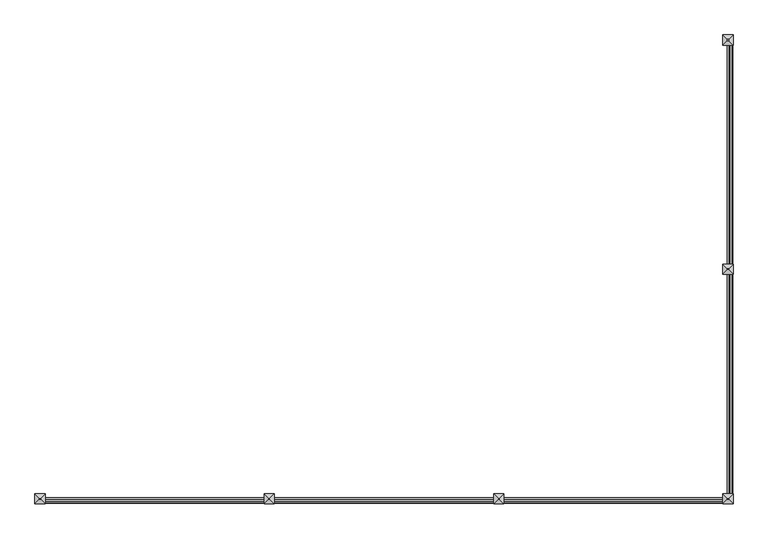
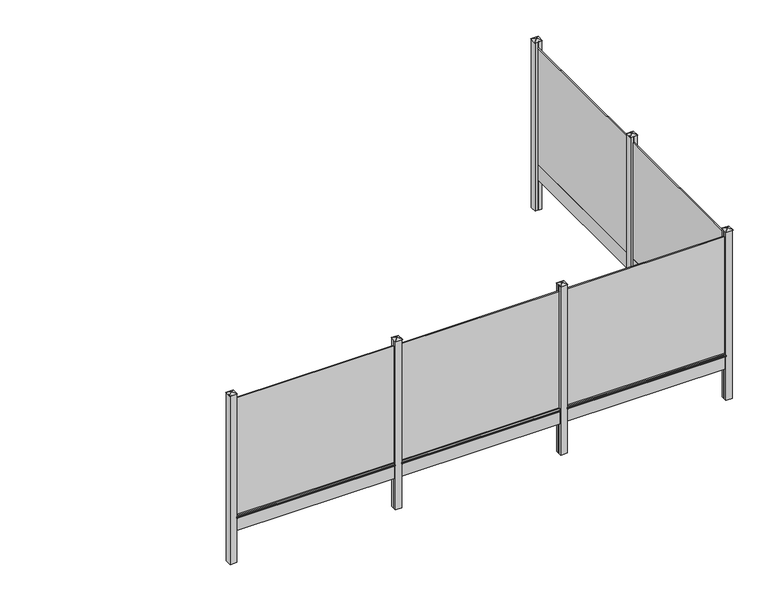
"""IFC4 building model written with IfcOpenShell, lengths in millimetres: railing geometry, Mehat - Railing - Plaque de Soubassement - Classique pour clôture rigide - 250x25x1.7 cm."""

import ifcopenshell
import ifcopenshell.guid

model = None  # the IFC model being written
_history = None  # IfcOwnerHistory: only IFC2X3 demands one
_inside = {}  # id of a spatial element -> (the spatial element, [elements in it])
_under = {}  # id of a project, library or spatial element -> (it, [spatial elements below it])
_declared = {}  # id of a project -> (the project, [libraries it declares])
_typed = {}  # id of a type object -> (the type object, [elements of that type])
_made_of = {}  # id of a material, layer set ... -> (it, [elements and type objects made of it])


def new_model(schema):
    """Start an empty IFC model of exactly this schema.

    Asked for "IFC4X3", IfcOpenShell would pick the latest addendum, in which some entities
    have other attributes; the version numbers below select the first issue.
    IFC2X3 requires an IfcOwnerHistory on every rooted entity: one is made here for all.
    """
    global model, _history
    if schema == "IFC4X3":
        model = ifcopenshell.file(schema_version=(4, 3, 0, 0))
    else:
        model = ifcopenshell.file(schema=schema)
    _inside.clear()
    _under.clear()
    _declared.clear()
    _typed.clear()
    _made_of.clear()
    _history = None
    if model.schema == "IFC2X3":
        org = make("IfcOrganization", Name="unknown")
        user = make(
            "IfcPersonAndOrganization",
            ThePerson=make("IfcPerson", FamilyName="unknown"),
            TheOrganization=org,
        )
        app = make(
            "IfcApplication",
            ApplicationDeveloper=org,
            Version="unknown",
            ApplicationFullName="unknown",
            ApplicationIdentifier="unknown",
        )
        _history = make(
            "IfcOwnerHistory",
            OwningUser=user,
            OwningApplication=app,
            ChangeAction="ADDED",
            CreationDate=0,
        )
    return model


def make(cls, **values):
    """One entity of the class cls with the attributes given. An attribute that is None is left unset."""
    return model.create_entity(
        cls, **{name: value for name, value in values.items() if value is not None}
    )


def rooted(cls, **values):
    """An entity with a GlobalId (a new one), such as an element, a storey or a relation."""
    return make(cls, GlobalId=ifcopenshell.guid.new(), OwnerHistory=_history, **values)


def si_unit(unit_type, name, prefix=None):
    """IfcSIUnit, for example si_unit("LENGTHUNIT", "METRE", prefix="MILLI")."""
    return make("IfcSIUnit", UnitType=unit_type, Prefix=prefix, Name=name)


def assignment(units):
    """IfcUnitAssignment: the units of a project."""
    return None if units is None else make("IfcUnitAssignment", Units=units)


def point(xyz):
    """IfcCartesianPoint."""
    return None if xyz is None else make("IfcCartesianPoint", Coordinates=xyz)


def direction(xyz):
    """IfcDirection."""
    return None if xyz is None else make("IfcDirection", DirectionRatios=xyz)


def frame(location, z_axis=None, x_axis=None):
    """IfcAxis2Placement3D, a coordinate frame: its origin and axes. An axis left out is left unset."""
    return make(
        "IfcAxis2Placement3D",
        Location=point(location),
        Axis=direction(z_axis),
        RefDirection=direction(x_axis),
    )


def frame_2d(location, x_axis=None):
    """IfcAxis2Placement2D, a coordinate frame in the plane: its origin and x axis."""
    return make(
        "IfcAxis2Placement2D", Location=point(location), RefDirection=direction(x_axis)
    )


def origin():
    """The frame at (0, 0, 0) with its axes left unset."""
    return frame((0.0, 0.0, 0.0))


def origin_with_axes():
    """The frame at (0, 0, 0) with the z axis (0, 0, 1) and the x axis (1, 0, 0) written out."""
    return frame((0.0, 0.0, 0.0), z_axis=(0.0, 0.0, 1.0), x_axis=(1.0, 0.0, 0.0))


def place(relative_to, where):
    """IfcLocalPlacement: puts the frame where relative to a parent placement (None: the world)."""
    return make(
        "IfcLocalPlacement", PlacementRelTo=relative_to, RelativePlacement=where
    )


def context(
    kind, dimensions, precision=None, world=None, true_north=None, identifier=None
):
    """IfcGeometricRepresentationContext, for example the 3D "Model" context."""
    return make(
        "IfcGeometricRepresentationContext",
        ContextIdentifier=identifier,
        ContextType=kind,
        CoordinateSpaceDimension=dimensions,
        Precision=precision,
        WorldCoordinateSystem=world,
        TrueNorth=true_north,
    )


def project(units=None, contexts=None):
    """IfcProject with its units and contexts."""
    return rooted(
        "IfcProject",
        Name="project",
        RepresentationContexts=contexts,
        UnitsInContext=assignment(units),
    )


def spatial(cls, under=None, at=None, **own):
    """A site, building, storey or space (cls), placed at a placement, below another one or the project."""
    s = rooted(cls, ObjectPlacement=at, **own)
    if under is not None:
        _under.setdefault(under.id(), (under, []))[1].append(s)
    return s


def polyline(points):
    """IfcPolyline through the points."""
    return make("IfcPolyline", Points=[point(p) for p in points])


def circle_curve(where, radius):
    """IfcCircle in the frame where."""
    return make("IfcCircle", Position=where, Radius=radius)


def trimmed(basis, trim1, trim2, sense, master):
    """IfcTrimmedCurve: the piece of a basis curve between two trims."""
    return make(
        "IfcTrimmedCurve",
        BasisCurve=basis,
        Trim1=trim1,
        Trim2=trim2,
        SenseAgreement=sense,
        MasterRepresentation=master,
    )


def segment(curve, same_sense, transition):
    """IfcCompositeCurveSegment."""
    return make(
        "IfcCompositeCurveSegment",
        Transition=transition,
        SameSense=same_sense,
        ParentCurve=curve,
    )


def composite_curve(segments, self_intersect=None):
    """IfcCompositeCurve: segments joined end to end."""
    return make("IfcCompositeCurve", Segments=segments, SelfIntersect=self_intersect)


def outline(outer, holes=None, kind="AREA"):
    """IfcArbitraryClosedProfileDef: a profile drawn as a closed curve; with holes, ...WithVoids."""
    if holes is None:
        return make("IfcArbitraryClosedProfileDef", ProfileType=kind, OuterCurve=outer)
    return make(
        "IfcArbitraryProfileDefWithVoids",
        ProfileType=kind,
        OuterCurve=outer,
        InnerCurves=holes,
    )


def extrude(swept, where, along, depth):
    """IfcExtrudedAreaSolid: the profile swept, set in the frame where, extruded along a direction by depth."""
    return make(
        "IfcExtrudedAreaSolid",
        SweptArea=swept,
        Position=where,
        ExtrudedDirection=direction(along),
        Depth=depth,
    )


def faces_of(points, faces, orient=None, outer=None):
    """IfcFace entities. A face is a list of loops; a loop is a list of indices into points, from 0.

    orient and outer hold one flag for each loop. By default every Orientation is true, the
    first loop of a face is its IfcFaceOuterBound and the others are IfcFaceBound.
    """
    made = []
    for i, loops in enumerate(faces):
        bounds = []
        for j, loop in enumerate(loops):
            is_outer = j == 0 if outer is None else outer[i][j]
            bounds.append(
                make(
                    "IfcFaceOuterBound" if is_outer else "IfcFaceBound",
                    Bound=make("IfcPolyLoop", Polygon=[points[k] for k in loop]),
                    Orientation=True if orient is None else orient[i][j],
                )
            )
        made.append(make("IfcFace", Bounds=bounds))
    return made


def faceted_brep(points, faces, orient=None, outer=None, voids=None):
    """IfcFacetedBrep: a solid bounded by flat faces; with voids (closed shells), ...WithVoids."""
    shared = [point(p) for p in points]
    hull = make("IfcClosedShell", CfsFaces=faces_of(shared, faces, orient, outer))
    if voids is None:
        return make("IfcFacetedBrep", Outer=hull)
    return make(
        "IfcFacetedBrepWithVoids",
        Outer=hull,
        Voids=[
            make(cls, CfsFaces=faces_of(shared, fs, o, b)) for cls, fs, o, b in voids
        ],
    )


def shape(context_of_items, identifier, shape_type, items):
    """IfcShapeRepresentation: the items that make up one representation, for example the "Body"."""
    return make(
        "IfcShapeRepresentation",
        ContextOfItems=context_of_items,
        RepresentationIdentifier=identifier,
        RepresentationType=shape_type,
        Items=items,
    )


def source(mapping_origin, context_of_items, identifier, shape_type, items):
    """IfcRepresentationMap: a shape defined once, which mapped items show again and again."""
    return make(
        "IfcRepresentationMap",
        MappingOrigin=mapping_origin,
        MappedRepresentation=shape(context_of_items, identifier, shape_type, items),
    )


def transform(
    local_origin,
    x_axis=None,
    y_axis=None,
    z_axis=None,
    scale=None,
    scale2=None,
    scale3=None,
    uniform=True,
):
    """IfcCartesianTransformationOperator3D, or its non-uniform kind. x_axis, y_axis, z_axis: its Axis1, 2, 3."""
    if uniform:
        return make(
            "IfcCartesianTransformationOperator3D",
            Axis1=direction(x_axis),
            Axis2=direction(y_axis),
            LocalOrigin=point(local_origin),
            Scale=scale,
            Axis3=direction(z_axis),
        )
    return make(
        "IfcCartesianTransformationOperator3DnonUniform",
        Axis1=direction(x_axis),
        Axis2=direction(y_axis),
        LocalOrigin=point(local_origin),
        Scale=scale,
        Axis3=direction(z_axis),
        Scale2=scale2,
        Scale3=scale3,
    )


def mapped(mapping_source, mapping_target):
    """IfcMappedItem: shows the shape of a source again, moved by a transform."""
    return make(
        "IfcMappedItem", MappingSource=mapping_source, MappingTarget=mapping_target
    )


def made_of(thing, what):
    """Note that an element or type object is made of a material, layer set ...; save() writes the relation."""
    if what is not None:
        _made_of.setdefault(what.id(), (what, []))[1].append(thing)
    return thing


def element(
    cls,
    number,
    at=None,
    inside=None,
    cuts=None,
    type_object=None,
    material=None,
    context=None,
    identifier="Body",
    shape_type=None,
    held_by="IfcProductDefinitionShape",
    body=None,
    shapes=None,
    **own,
):
    """One element of the class cls, such as IfcWall. Its Tag is "e" and its number.

    at: its placement. inside: the storey or other place that contains it. cuts: it is an
    opening in that element (IfcRelVoidsElement). A single representation is given by context,
    identifier, shape_type and body (its items); several are given by shapes. held_by: the class
    of the entity that holds the representations. save() writes the other relations.
    """
    e = rooted(cls, Tag="e%d" % number, ObjectPlacement=at, **own)
    if body is not None:
        shapes = [shape(context, identifier, shape_type, body)]
    if shapes is not None:
        e.Representation = make(held_by, Representations=shapes)
    if inside is not None:
        _inside.setdefault(inside.id(), (inside, []))[1].append(e)
    if cuts is not None:
        rooted(
            "IfcRelVoidsElement", RelatingBuildingElement=cuts, RelatedOpeningElement=e
        )
    if type_object is not None:
        _typed.setdefault(type_object.id(), (type_object, []))[1].append(e)
    return made_of(e, material)


def aggregate(whole, parts):
    """IfcRelAggregates: a whole, such as a stair, and the parts it consists of."""
    return rooted("IfcRelAggregates", RelatingObject=whole, RelatedObjects=parts)


def save(model, path):
    """Write the relations noted so far, then the file.

    IfcRelAggregates (storeys below a building ...), IfcRelContainedInSpatialStructure (elements
    in a storey), IfcRelDefinesByType, IfcRelAssociatesMaterial and IfcRelDeclares: one each for
    every whole, place, type object, material and project.
    """
    for whole, parts in _under.values():
        aggregate(whole, parts)
    for where, things in _inside.values():
        rooted(
            "IfcRelContainedInSpatialStructure",
            RelatedElements=things,
            RelatingStructure=where,
        )
    for kind, things in _typed.values():
        rooted("IfcRelDefinesByType", RelatedObjects=things, RelatingType=kind)
    for what, things in _made_of.values():
        rooted("IfcRelAssociatesMaterial", RelatedObjects=things, RelatingMaterial=what)
    for by, libraries in _declared.values():
        rooted("IfcRelDeclares", RelatingContext=by, RelatedDefinitions=libraries)
    model.write(path)


def railing_7e02b309(model_context):
    return source(origin(), model_context, "Body", "SolidModel", [
        extrude(outline(polyline([(-27203.7483484, -11027.4943936), (-27220.7483484, -11027.4943936), (-27220.7483484, -8527.4943936), (-27203.7483484, -8527.4943936), (-27203.7483484, -11027.4943936)])), frame((0.0, 0.0, 250.0), z_axis=(0.0, 0.0, 1.0), x_axis=(1.0, 0.0, 0.0)), (0.0, 0.0, 1.0), 1900.0),
        extrude(outline(polyline([(-27203.7483484, -11027.4943936), (-27220.7483484, -11027.4943936), (-27220.7483484, -8527.4943936), (-27203.7483484, -8527.4943936), (-27203.7483484, -8552.4943936), (-27185.7483484, -8552.4943936), (-27185.7483484, -11002.4943936), (-27203.7483484, -11002.4943936), (-27203.7483484, -11027.4943936)])), origin_with_axes(), (0.0, 0.0, 1.0), 250.0),
        extrude(outline(composite_curve([segment(polyline([(210.0, -27185.7483484), (217.1937129, -27164.1672095)]), True, "CONTINUOUS"), segment(trimmed(circle_curve(frame_2d((221.9371294, -27165.7483484)), 5.0), [point((217.1937129, -27164.1672095))], [point((221.9371294, -27160.7483484))], False, "CARTESIAN"), True, "CONTINUOUS"), segment(polyline([(221.9371294, -27160.7483484), (238.0628706, -27160.7483484)]), True, "CONTINUOUS"), segment(trimmed(circle_curve(frame_2d((238.0628706, -27165.7483484)), 5.0), [point((238.0628706, -27160.7483484))], [point((242.8062871, -27164.1672095))], False, "CARTESIAN"), True, "CONTINUOUS"), segment(polyline([(242.8062871, -27164.1672095), (250.0, -27185.7483484), (210.0, -27185.7483484)]), True, "CONTINUOUS")], self_intersect=False)), frame((0.0, -11002.4943936, 0.0), z_axis=(0.0, 1.0, 0.0), x_axis=(0.0, 0.0, 1.0)), (0.0, 0.0, 1.0), 2450.0),
        extrude(outline(polyline([(-27162.2483484, -11102.4943936), (-27203.7483484, -11102.4943936), (-27203.7483484, -11077.4943936), (-27220.7483484, -11077.4943936), (-27220.7483484, -11102.4943936), (-27262.2483484, -11102.4943936), (-27262.2483484, -11002.4943936), (-27220.7483484, -11002.4943936), (-27220.7483484, -11027.4943936), (-27203.7483484, -11027.4943936), (-27203.7483484, -11002.4943936), (-27162.2483484, -11002.4943936), (-27162.2483484, -11102.4943936)])), frame((0.0, 0.0, -500.0), z_axis=(0.0, 0.0, 1.0), x_axis=(1.0, 0.0, 0.0)), (0.0, 0.0, 1.0), 2750.0),
        faceted_brep([(-27218.6528945, -11046.1443936, 2275.4), (-27218.6528945, -11058.8443936, 2275.4), (-27205.9528945, -11058.8443936, 2275.4), (-27205.9528945, -11046.1443936, 2275.4), (-27268.5983484, -10996.1443936, 2250.0), (-27155.8983484, -10996.1443936, 2250.0), (-27155.8983484, -11108.8443936, 2250.0), (-27268.5983484, -11108.8443936, 2250.0)], [[[0, 1, 2, 3]], [[4, 5, 6, 7]], [[4, 0, 3, 5]], [[5, 3, 2, 6]], [[6, 2, 1, 7]], [[7, 1, 0, 4]]]),
        extrude(outline(polyline([(-27203.7483484, -13577.4943936), (-27220.7483484, -13577.4943936), (-27220.7483484, -11077.4943936), (-27203.7483484, -11077.4943936), (-27203.7483484, -13577.4943936)])), frame((0.0, 0.0, 250.0), z_axis=(0.0, 0.0, 1.0), x_axis=(1.0, 0.0, 0.0)), (0.0, 0.0, 1.0), 1900.0),
        extrude(outline(polyline([(-27203.7483484, -13577.4943936), (-27220.7483484, -13577.4943936), (-27220.7483484, -11077.4943936), (-27203.7483484, -11077.4943936), (-27203.7483484, -11102.4943936), (-27185.7483484, -11102.4943936), (-27185.7483484, -13552.4943936), (-27203.7483484, -13552.4943936), (-27203.7483484, -13577.4943936)])), origin_with_axes(), (0.0, 0.0, 1.0), 250.0),
        extrude(outline(composite_curve([segment(polyline([(210.0, -27185.7483484), (217.1937129, -27164.1672095)]), True, "CONTINUOUS"), segment(trimmed(circle_curve(frame_2d((221.9371294, -27165.7483484)), 5.0), [point((217.1937129, -27164.1672095))], [point((221.9371294, -27160.7483484))], False, "CARTESIAN"), True, "CONTINUOUS"), segment(polyline([(221.9371294, -27160.7483484), (238.0628706, -27160.7483484)]), True, "CONTINUOUS"), segment(trimmed(circle_curve(frame_2d((238.0628706, -27165.7483484)), 5.0), [point((238.0628706, -27160.7483484))], [point((242.8062871, -27164.1672095))], False, "CARTESIAN"), True, "CONTINUOUS"), segment(polyline([(242.8062871, -27164.1672095), (250.0, -27185.7483484), (210.0, -27185.7483484)]), True, "CONTINUOUS")], self_intersect=False)), frame((0.0, -13552.4943936, 0.0), z_axis=(0.0, 1.0, 0.0), x_axis=(0.0, 0.0, 1.0)), (0.0, 0.0, 1.0), 2450.0),
        extrude(outline(polyline([(-29737.2483484, -13610.9943936), (-29737.2483484, -13593.9943936), (-27237.2483484, -13593.9943936), (-27237.2483484, -13610.9943936), (-29737.2483484, -13610.9943936)])), frame((0.0, 0.0, 250.0), z_axis=(0.0, 0.0, 1.0), x_axis=(1.0, 0.0, 0.0)), (0.0, 0.0, 1.0), 1900.0),
        extrude(outline(polyline([(-29737.2483484, -13610.9943936), (-29737.2483484, -13593.9943936), (-27237.2483484, -13593.9943936), (-27237.2483484, -13610.9943936), (-27262.2483484, -13610.9943936), (-27262.2483484, -13628.9943936), (-29712.2483484, -13628.9943936), (-29712.2483484, -13610.9943936), (-29737.2483484, -13610.9943936)])), origin_with_axes(), (0.0, 0.0, 1.0), 250.0),
        extrude(outline(composite_curve([segment(polyline([(-13628.9943936, 210.0), (-13650.5755325, 217.1937129)]), True, "CONTINUOUS"), segment(trimmed(circle_curve(frame_2d((-13648.9943936, 221.9371294)), 5.0), [point((-13650.5755325, 217.1937129))], [point((-13653.9943936, 221.9371294))], False, "CARTESIAN"), True, "CONTINUOUS"), segment(polyline([(-13653.9943936, 221.9371294), (-13653.9943936, 238.0628706)]), True, "CONTINUOUS"), segment(trimmed(circle_curve(frame_2d((-13648.9943936, 238.0628706)), 5.0), [point((-13653.9943936, 238.0628706))], [point((-13650.5755325, 242.8062871))], False, "CARTESIAN"), True, "CONTINUOUS"), segment(polyline([(-13650.5755325, 242.8062871), (-13628.9943936, 250.0), (-13628.9943936, 210.0)]), True, "CONTINUOUS")], self_intersect=False)), frame((-29712.2483484, 0.0, 0.0), z_axis=(1.0, 0.0, 0.0), x_axis=(0.0, 1.0, 0.0)), (0.0, 0.0, 1.0), 2450.0),
        extrude(outline(polyline([(-29812.2483484, -13652.4943936), (-29812.2483484, -13610.9943936), (-29787.2483484, -13610.9943936), (-29787.2483484, -13593.9943936), (-29812.2483484, -13593.9943936), (-29812.2483484, -13552.4943936), (-29712.2483484, -13552.4943936), (-29712.2483484, -13593.9943936), (-29737.2483484, -13593.9943936), (-29737.2483484, -13610.9943936), (-29712.2483484, -13610.9943936), (-29712.2483484, -13652.4943936), (-29812.2483484, -13652.4943936)])), frame((0.0, 0.0, -500.0), z_axis=(0.0, 0.0, 1.0), x_axis=(1.0, 0.0, 0.0)), (0.0, 0.0, 1.0), 2750.0),
        faceted_brep([(-29755.8983484, -13596.0898475, 2275.4), (-29768.5983484, -13596.0898475, 2275.4), (-29768.5983484, -13608.7898475, 2275.4), (-29755.8983484, -13608.7898475, 2275.4), (-29705.8983484, -13546.1443936, 2250.0), (-29705.8983484, -13658.8443936, 2250.0), (-29818.5983484, -13658.8443936, 2250.0), (-29818.5983484, -13546.1443936, 2250.0)], [[[0, 1, 2, 3]], [[4, 5, 6, 7]], [[4, 0, 3, 5]], [[5, 3, 2, 6]], [[6, 2, 1, 7]], [[7, 1, 0, 4]]]),
        extrude(outline(polyline([(-32287.2483484, -13610.9943936), (-32287.2483484, -13593.9943936), (-29787.2483484, -13593.9943936), (-29787.2483484, -13610.9943936), (-32287.2483484, -13610.9943936)])), frame((0.0, 0.0, 250.0), z_axis=(0.0, 0.0, 1.0), x_axis=(1.0, 0.0, 0.0)), (0.0, 0.0, 1.0), 1900.0),
        extrude(outline(polyline([(-32287.2483484, -13610.9943936), (-32287.2483484, -13593.9943936), (-29787.2483484, -13593.9943936), (-29787.2483484, -13610.9943936), (-29812.2483484, -13610.9943936), (-29812.2483484, -13628.9943936), (-32262.2483484, -13628.9943936), (-32262.2483484, -13610.9943936), (-32287.2483484, -13610.9943936)])), origin_with_axes(), (0.0, 0.0, 1.0), 250.0),
        extrude(outline(composite_curve([segment(polyline([(-13628.9943936, 210.0), (-13650.5755325, 217.1937129)]), True, "CONTINUOUS"), segment(trimmed(circle_curve(frame_2d((-13648.9943936, 221.9371294)), 5.0), [point((-13650.5755325, 217.1937129))], [point((-13653.9943936, 221.9371294))], False, "CARTESIAN"), True, "CONTINUOUS"), segment(polyline([(-13653.9943936, 221.9371294), (-13653.9943936, 238.0628706)]), True, "CONTINUOUS"), segment(trimmed(circle_curve(frame_2d((-13648.9943936, 238.0628706)), 5.0), [point((-13653.9943936, 238.0628706))], [point((-13650.5755325, 242.8062871))], False, "CARTESIAN"), True, "CONTINUOUS"), segment(polyline([(-13650.5755325, 242.8062871), (-13628.9943936, 250.0), (-13628.9943936, 210.0)]), True, "CONTINUOUS")], self_intersect=False)), frame((-32262.2483484, 0.0, 0.0), z_axis=(1.0, 0.0, 0.0), x_axis=(0.0, 1.0, 0.0)), (0.0, 0.0, 1.0), 2450.0),
        extrude(outline(polyline([(-32362.2483484, -13652.4943936), (-32362.2483484, -13610.9943936), (-32337.2483484, -13610.9943936), (-32337.2483484, -13593.9943936), (-32362.2483484, -13593.9943936), (-32362.2483484, -13552.4943936), (-32262.2483484, -13552.4943936), (-32262.2483484, -13593.9943936), (-32287.2483484, -13593.9943936), (-32287.2483484, -13610.9943936), (-32262.2483484, -13610.9943936), (-32262.2483484, -13652.4943936), (-32362.2483484, -13652.4943936)])), frame((0.0, 0.0, -500.0), z_axis=(0.0, 0.0, 1.0), x_axis=(1.0, 0.0, 0.0)), (0.0, 0.0, 1.0), 2750.0),
        faceted_brep([(-32305.8983484, -13596.0898475, 2275.4), (-32318.5983484, -13596.0898475, 2275.4), (-32318.5983484, -13608.7898475, 2275.4), (-32305.8983484, -13608.7898475, 2275.4), (-32255.8983484, -13546.1443936, 2250.0), (-32255.8983484, -13658.8443936, 2250.0), (-32368.5983484, -13658.8443936, 2250.0), (-32368.5983484, -13546.1443936, 2250.0)], [[[0, 1, 2, 3]], [[4, 5, 6, 7]], [[4, 0, 3, 5]], [[5, 3, 2, 6]], [[6, 2, 1, 7]], [[7, 1, 0, 4]]]),
        extrude(outline(polyline([(-34837.2483484, -13610.9943936), (-34837.2483484, -13593.9943936), (-32337.2483484, -13593.9943936), (-32337.2483484, -13610.9943936), (-34837.2483484, -13610.9943936)])), frame((0.0, 0.0, 250.0), z_axis=(0.0, 0.0, 1.0), x_axis=(1.0, 0.0, 0.0)), (0.0, 0.0, 1.0), 1900.0),
        extrude(outline(polyline([(-34837.2483484, -13610.9943936), (-34837.2483484, -13593.9943936), (-32337.2483484, -13593.9943936), (-32337.2483484, -13610.9943936), (-32362.2483484, -13610.9943936), (-32362.2483484, -13628.9943936), (-34812.2483484, -13628.9943936), (-34812.2483484, -13610.9943936), (-34837.2483484, -13610.9943936)])), origin_with_axes(), (0.0, 0.0, 1.0), 250.0),
        extrude(outline(composite_curve([segment(polyline([(-13628.9943936, 210.0), (-13650.5755325, 217.1937129)]), True, "CONTINUOUS"), segment(trimmed(circle_curve(frame_2d((-13648.9943936, 221.9371294)), 5.0), [point((-13650.5755325, 217.1937129))], [point((-13653.9943936, 221.9371294))], False, "CARTESIAN"), True, "CONTINUOUS"), segment(polyline([(-13653.9943936, 221.9371294), (-13653.9943936, 238.0628706)]), True, "CONTINUOUS"), segment(trimmed(circle_curve(frame_2d((-13648.9943936, 238.0628706)), 5.0), [point((-13653.9943936, 238.0628706))], [point((-13650.5755325, 242.8062871))], False, "CARTESIAN"), True, "CONTINUOUS"), segment(polyline([(-13650.5755325, 242.8062871), (-13628.9943936, 250.0), (-13628.9943936, 210.0)]), True, "CONTINUOUS")], self_intersect=False)), frame((-34812.2483484, 0.0, 0.0), z_axis=(1.0, 0.0, 0.0), x_axis=(0.0, 1.0, 0.0)), (0.0, 0.0, 1.0), 2450.0),
        extrude(outline(polyline([(-27262.2483484, -13652.4943936), (-27262.2483484, -13610.9943936), (-27237.2483484, -13610.9943936), (-27237.2483484, -13593.9943936), (-27262.2483484, -13593.9943936), (-27262.2483484, -13552.4943936), (-27220.7483484, -13552.4943936), (-27220.7483484, -13577.4943936), (-27203.7483484, -13577.4943936), (-27203.7483484, -13552.4943936), (-27162.2483484, -13552.4943936), (-27162.2483484, -13652.4943936), (-27262.2483484, -13652.4943936)])), frame((0.0, 0.0, -500.0), z_axis=(0.0, 0.0, 1.0), x_axis=(1.0, 0.0, 0.0)), (0.0, 0.0, 1.0), 2750.0),
        faceted_brep([(-27205.8983484, -13596.0898475, 2275.4), (-27218.5983484, -13596.0898475, 2275.4), (-27218.5983484, -13608.7898475, 2275.4), (-27205.8983484, -13608.7898475, 2275.4), (-27155.8983484, -13546.1443936, 2250.0), (-27155.8983484, -13658.8443936, 2250.0), (-27268.5983484, -13658.8443936, 2250.0), (-27268.5983484, -13546.1443936, 2250.0)], [[[0, 1, 2, 3]], [[4, 5, 6, 7]], [[4, 0, 3, 5]], [[5, 3, 2, 6]], [[6, 2, 1, 7]], [[7, 1, 0, 4]]]),
        extrude(outline(polyline([(-27162.2483484, -8552.4943936), (-27203.7483484, -8552.4943936), (-27203.7483484, -8527.4943936), (-27220.7483484, -8527.4943936), (-27220.7483484, -8552.4943936), (-27262.2483484, -8552.4943936), (-27262.2483484, -8452.4943936), (-27162.2483484, -8452.4943936), (-27162.2483484, -8552.4943936)])), frame((0.0, 0.0, -500.0), z_axis=(0.0, 0.0, 1.0), x_axis=(1.0, 0.0, 0.0)), (0.0, 0.0, 1.0), 2750.0),
        faceted_brep([(-27218.6528945, -8496.1443936, 2275.4), (-27218.6528945, -8508.8443936, 2275.4), (-27205.9528945, -8508.8443936, 2275.4), (-27205.9528945, -8496.1443936, 2275.4), (-27268.5983484, -8446.1443936, 2250.0), (-27155.8983484, -8446.1443936, 2250.0), (-27155.8983484, -8558.8443936, 2250.0), (-27268.5983484, -8558.8443936, 2250.0)], [[[0, 1, 2, 3]], [[4, 5, 6, 7]], [[4, 0, 3, 5]], [[5, 3, 2, 6]], [[6, 2, 1, 7]], [[7, 1, 0, 4]]]),
        extrude(outline(polyline([(-34912.2483484, -13652.4943936), (-34912.2483484, -13552.4943936), (-34812.2483484, -13552.4943936), (-34812.2483484, -13593.9943936), (-34837.2483484, -13593.9943936), (-34837.2483484, -13610.9943936), (-34812.2483484, -13610.9943936), (-34812.2483484, -13652.4943936), (-34912.2483484, -13652.4943936)])), frame((0.0, 0.0, -500.0), z_axis=(0.0, 0.0, 1.0), x_axis=(1.0, 0.0, 0.0)), (0.0, 0.0, 1.0), 2750.0),
        faceted_brep([(-34855.8983484, -13596.0898475, 2275.4), (-34868.5983484, -13596.0898475, 2275.4), (-34868.5983484, -13608.7898475, 2275.4), (-34855.8983484, -13608.7898475, 2275.4), (-34805.8983484, -13546.1443936, 2250.0), (-34805.8983484, -13658.8443936, 2250.0), (-34918.5983484, -13658.8443936, 2250.0), (-34918.5983484, -13546.1443936, 2250.0)], [[[0, 1, 2, 3]], [[4, 5, 6, 7]], [[4, 0, 3, 5]], [[5, 3, 2, 6]], [[6, 2, 1, 7]], [[7, 1, 0, 4]]]),
    ])


if __name__ == "__main__":
    model = new_model("IFC4")
    model_context = context("Model", 3, world=origin())
    ifc_project = project(units=[si_unit("LENGTHUNIT", "METRE", prefix="MILLI")], contexts=[model_context])
    site = spatial("IfcSite", under=ifc_project)
    building = spatial("IfcBuilding", under=site)
    placement = place(None, origin())
    railing_shape = railing_7e02b309(model_context)
    element("IfcRailing", 1, ObjectType="Mehat - Railing - Plaque de Soubassement - Classique pour clôture rigide - 250x25x1.7 cm", at=placement, inside=building, context=model_context, shape_type="MappedRepresentation", body=[
        mapped(railing_shape, transform((0.0, 0.0, 0.0), x_axis=(1.0, 0.0, 0.0), y_axis=(0.0, 1.0, 0.0), z_axis=(0.0, 0.0, 1.0))),
    ])
    save(model, "model.ifc")
